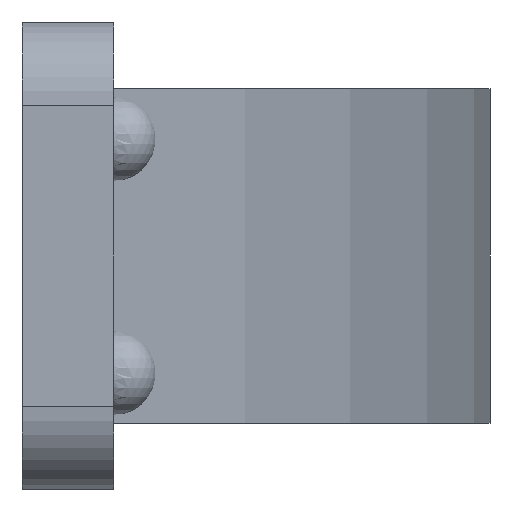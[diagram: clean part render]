
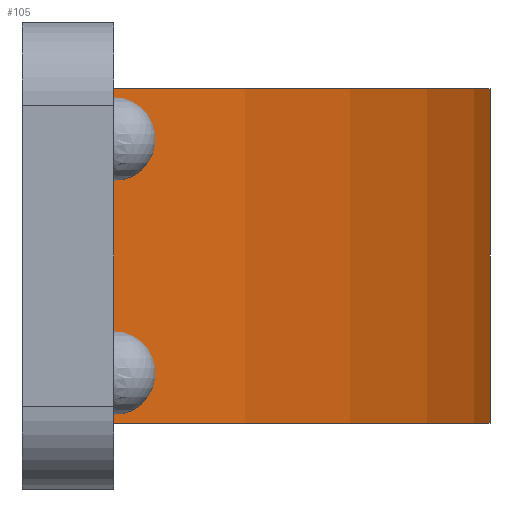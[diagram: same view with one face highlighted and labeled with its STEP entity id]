
A CAD part, left-side view. The second image highlights one B-rep face of the part: STEP entity #105.
In plain terms, the highlighted cylindrical face has radius 76.05 mm (diameter 152.1 mm), a partial arc.
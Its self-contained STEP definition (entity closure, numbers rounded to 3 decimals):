
#105 = ADVANCED_FACE( '', ( #176 ), #177, .T. );
#176 = FACE_OUTER_BOUND( '', #250, .T. );
#177 = CYLINDRICAL_SURFACE( '', #251, 76.05 );
#250 = EDGE_LOOP( '', ( #512, #513, #514, #515 ) );
#251 = AXIS2_PLACEMENT_3D( '', #516, #517, #518 );
#512 = ORIENTED_EDGE( '', *, *, #622, .T. );
#513 = ORIENTED_EDGE( '', *, *, #565, .F. );
#514 = ORIENTED_EDGE( '', *, *, #596, .F. );
#515 = ORIENTED_EDGE( '', *, *, #600, .T. );
#516 = CARTESIAN_POINT( '', ( 48., 48.05, 10. ) );
#517 = DIRECTION( '', ( 0., 0., 1. ) );
#518 = DIRECTION( '', ( -0.71, -0.704, 0. ) );
#565 = EDGE_CURVE( '', #674, #677, #678, .T. );
#596 = EDGE_CURVE( '', #729, #674, #731, .T. );
#600 = EDGE_CURVE( '', #729, #735, #738, .T. );
#622 = EDGE_CURVE( '', #735, #677, #773, .T. );
#674 = VERTEX_POINT( '', #832 );
#677 = VERTEX_POINT( '', #836 );
#678 = LINE( '', #837, #838 );
#729 = VERTEX_POINT( '', #913 );
#731 = CIRCLE( '', #916, 76.05 );
#735 = VERTEX_POINT( '', #922 );
#738 = LINE( '', #926, #927 );
#773 = CIRCLE( '', #979, 76.05 );
#832 = CARTESIAN_POINT( '', ( 102., -5.5, 10. ) );
#836 = CARTESIAN_POINT( '', ( 102., -5.5, -10. ) );
#837 = CARTESIAN_POINT( '', ( 102., -5.5, 10. ) );
#838 = VECTOR( '', #1061, 1. );
#913 = CARTESIAN_POINT( '', ( -6., -5.5, 10. ) );
#916 = AXIS2_PLACEMENT_3D( '', #1102, #1103, #1104 );
#922 = CARTESIAN_POINT( '', ( -6., -5.5, -10. ) );
#926 = CARTESIAN_POINT( '', ( -6., -5.5, 10. ) );
#927 = VECTOR( '', #1108, 1. );
#979 = AXIS2_PLACEMENT_3D( '', #1138, #1139, #1140 );
#1061 = DIRECTION( '', ( 0., 0., -1. ) );
#1102 = CARTESIAN_POINT( '', ( 48., 48.05, 10. ) );
#1103 = DIRECTION( '', ( 0., 0., 1. ) );
#1104 = DIRECTION( '', ( -0.71, -0.704, 0. ) );
#1108 = DIRECTION( '', ( 0., 0., -1. ) );
#1138 = CARTESIAN_POINT( '', ( 48., 48.05, -10. ) );
#1139 = DIRECTION( '', ( 0., 0., 1. ) );
#1140 = DIRECTION( '', ( -0.71, -0.704, 0. ) );
